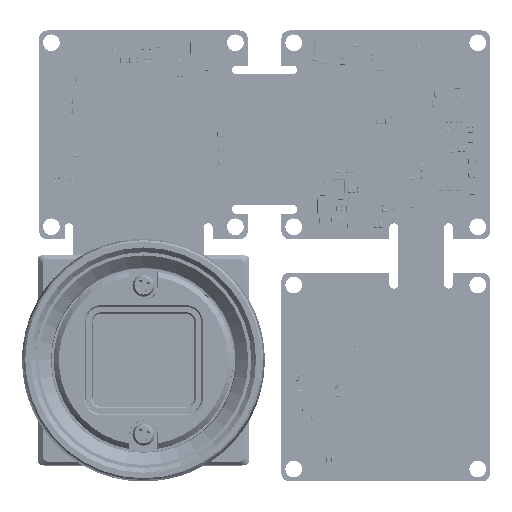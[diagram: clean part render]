
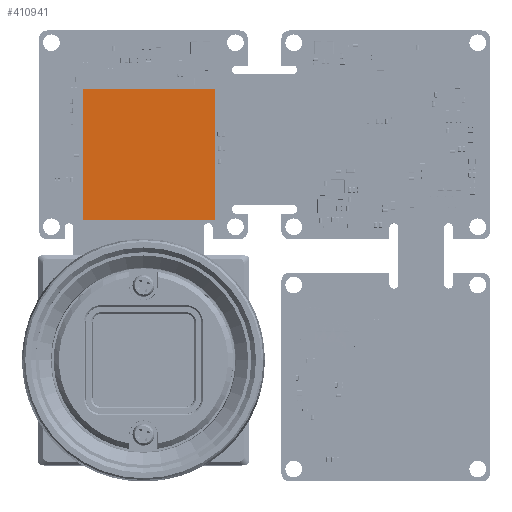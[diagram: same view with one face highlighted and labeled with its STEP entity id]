
A CAD part, top view. The second image highlights one B-rep face of the part: STEP entity #410941.
In plain terms, the highlighted planar face has unit normal (0, 0, 1).
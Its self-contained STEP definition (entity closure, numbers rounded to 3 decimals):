
#17048 = FACE_OUTER_BOUND ( 'NONE', #44096, .T. ) ;
#21728 = DIRECTION ( 'NONE',  ( -1., 0., 0. ) ) ;
#24296 = CARTESIAN_POINT ( 'NONE',  ( 8.16, 15.999, -0.75 ) ) ;
#44096 = EDGE_LOOP ( 'NONE', ( #360399, #440208, #494812, #360037 ) ) ;
#81698 = DIRECTION ( 'NONE',  ( 0., -1., 0. ) ) ;
#88460 = VERTEX_POINT ( 'NONE', #132957 ) ;
#113396 = PLANE ( 'NONE',  #430709 ) ;
#117582 = DIRECTION ( 'NONE',  ( 1., 0., 0. ) ) ;
#132957 = CARTESIAN_POINT ( 'NONE',  ( -6.84, 30.999, -0.75 ) ) ;
#145389 = VERTEX_POINT ( 'NONE', #293075 ) ;
#156166 = VECTOR ( 'NONE', #117582, 1000. ) ;
#188583 = VECTOR ( 'NONE', #81698, 1000. ) ;
#207301 = CARTESIAN_POINT ( 'NONE',  ( -6.84, 15.999, -0.75 ) ) ;
#220519 = VERTEX_POINT ( 'NONE', #374401 ) ;
#226781 = EDGE_CURVE ( 'NONE', #220519, #384461, #445364, .T. ) ;
#239545 = EDGE_CURVE ( 'NONE', #145389, #220519, #343021, .T. ) ;
#243814 = VECTOR ( 'NONE', #600099, 1000. ) ;
#247011 = CARTESIAN_POINT ( 'NONE',  ( 8.16, 30.999, -0.75 ) ) ;
#265606 = EDGE_CURVE ( 'NONE', #88460, #145389, #442344, .T. ) ;
#293075 = CARTESIAN_POINT ( 'NONE',  ( -6.84, 15.999, -0.75 ) ) ;
#342385 = VECTOR ( 'NONE', #21728, 1000. ) ;
#343021 = LINE ( 'NONE', #207301, #156166 ) ;
#360037 = ORIENTED_EDGE ( 'NONE', *, *, #369249, .T. ) ;
#360399 = ORIENTED_EDGE ( 'NONE', *, *, #265606, .T. ) ;
#369249 = EDGE_CURVE ( 'NONE', #384461, #88460, #596344, .T. ) ;
#374401 = CARTESIAN_POINT ( 'NONE',  ( 8.16, 15.999, -0.75 ) ) ;
#384461 = VERTEX_POINT ( 'NONE', #497494 ) ;
#394975 = DIRECTION ( 'NONE',  ( 0., -1., 0. ) ) ;
#410941 = ADVANCED_FACE ( 'NONE', ( #17048 ), #113396, .F. ) ;
#430709 = AXIS2_PLACEMENT_3D ( 'NONE', #247011, #491067, #394975 ) ;
#440208 = ORIENTED_EDGE ( 'NONE', *, *, #239545, .T. ) ;
#442344 = LINE ( 'NONE', #555374, #188583 ) ;
#445364 = LINE ( 'NONE', #24296, #243814 ) ;
#491067 = DIRECTION ( 'NONE',  ( 0., 0., -1. ) ) ;
#494812 = ORIENTED_EDGE ( 'NONE', *, *, #226781, .T. ) ;
#497494 = CARTESIAN_POINT ( 'NONE',  ( 8.16, 30.999, -0.75 ) ) ;
#539288 = CARTESIAN_POINT ( 'NONE',  ( 8.16, 30.999, -0.75 ) ) ;
#555374 = CARTESIAN_POINT ( 'NONE',  ( -6.84, 30.999, -0.75 ) ) ;
#596344 = LINE ( 'NONE', #539288, #342385 ) ;
#600099 = DIRECTION ( 'NONE',  ( 0., 1., 0. ) ) ;
